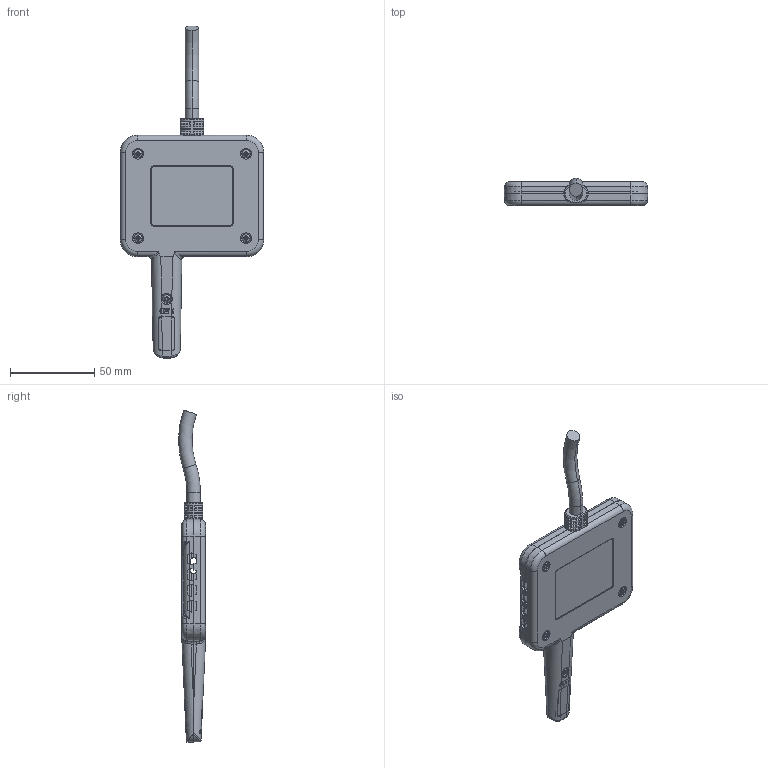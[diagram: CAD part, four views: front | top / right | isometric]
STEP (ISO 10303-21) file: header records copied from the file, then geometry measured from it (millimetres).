
FILE_DESCRIPTION((''),'2;1');
FILE_NAME('PPG-2TF_ASM','2025-12-16T16:52:06',('Owen'),(''),'CREO PARAMETRIC BY PTC INC, 2024153','CREO PARAMETRIC BY PTC INC, 2024153','');
FILE_SCHEMA(('AUTOMOTIVE_DESIGN { 1 0 10303 214 1 1 1 1 }'));
Products named in the file (8): PPG-2T_PLB; PPG-2T_FILM; PPG-2T_PLB_ASM; PPG-2T_PLT; PPG-2T-PLT_ASM; PPG-2T_CABLE; OD2_5_SCREW-E31-1260901; PPG-2TF_ASM
Assembly tree (14 placements, depth 3):
  PPG-2TF_ASM
    PPG-2T_PLB_ASM
      PPG-2T_PLB
      PPG-2T_FILM
    PPG-2T-PLT_ASM
      PPG-2T_PLT
      PPG-2T_FILM
    PPG-2T_FILM  x2
    PPG-2T_CABLE
    OD2_5_SCREW-E31-1260901  x5
Bounding box: 84.99 x 16 x 196.71 mm (x, y, z)
Volume: 32265.9 mm3; surface area: 45713.3 mm2
Topology: 12 solids, 13 shells, 2051 faces, 5521 edges, 3539 vertices
Faces by surface type: plane 1060, cylinder 530, bspline 188, torus 157, cone 72, extrusion 44
Entity records: 77499 total; most frequent: CARTESIAN_POINT 23916, ORIENTED_EDGE 9614, DIRECTION 8496, EDGE_CURVE 4815, VERTEX_POINT 3079, PRESENTATION_STYLE_ASSIGNMENT 2950, STYLED_ITEM 2946, AXIS2_PLACEMENT_3D 2859
